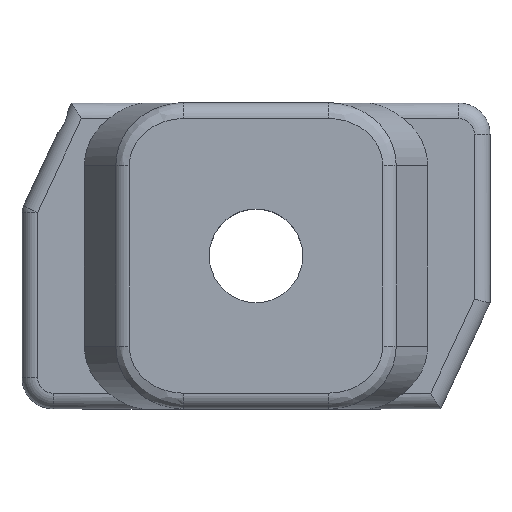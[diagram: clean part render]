
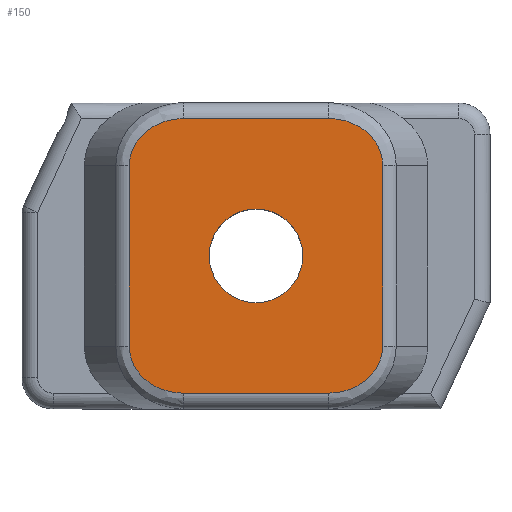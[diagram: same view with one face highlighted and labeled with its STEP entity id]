
A CAD part, top view. The second image highlights one B-rep face of the part: STEP entity #150.
In plain terms, the highlighted planar face has unit normal (0, 0, 1).
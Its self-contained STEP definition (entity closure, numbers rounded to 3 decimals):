
#150=ADVANCED_FACE('',(#338,#339),#340,.T.);
#338=FACE_BOUND('',#744,.T.);
#339=FACE_OUTER_BOUND('',#745,.T.);
#340=PLANE('',#746);
#744=EDGE_LOOP('',(#1281));
#745=EDGE_LOOP('',(#1282,#1283,#1284,#1285,#1286,#1287,#1288,#1289));
#746=AXIS2_PLACEMENT_3D('',#1290,#1291,#1292);
#1281=ORIENTED_EDGE('',*,*,#1773,.T.);
#1282=ORIENTED_EDGE('',*,*,#1774,.T.);
#1283=ORIENTED_EDGE('',*,*,#1775,.T.);
#1284=ORIENTED_EDGE('',*,*,#1776,.T.);
#1285=ORIENTED_EDGE('',*,*,#1769,.T.);
#1286=ORIENTED_EDGE('',*,*,#1777,.T.);
#1287=ORIENTED_EDGE('',*,*,#1778,.T.);
#1288=ORIENTED_EDGE('',*,*,#1779,.T.);
#1289=ORIENTED_EDGE('',*,*,#1780,.T.);
#1290=CARTESIAN_POINT('',(-7.5,-4.9,0.));
#1291=DIRECTION('',(0.0,0.0,1.0));
#1292=DIRECTION('',(1.0,0.0,0.0));
#1769=EDGE_CURVE('',#2063,#2061,#2064,.T.);
#1773=EDGE_CURVE('',#2069,#2069,#2070,.T.);
#1774=EDGE_CURVE('',#2071,#2072,#2073,.F.);
#1775=EDGE_CURVE('',#2072,#2074,#2075,.T.);
#1776=EDGE_CURVE('',#2074,#2063,#2076,.T.);
#1777=EDGE_CURVE('',#2061,#2077,#2078,.T.);
#1778=EDGE_CURVE('',#2077,#2079,#2080,.T.);
#1779=EDGE_CURVE('',#2079,#2081,#2082,.T.);
#1780=EDGE_CURVE('',#2081,#2071,#2083,.T.);
#2061=VERTEX_POINT('',#2446);
#2063=VERTEX_POINT('',#2448);
#2064=ELLIPSE('',#2449,1.73,1.5);
#2069=VERTEX_POINT('',#2454);
#2070=CIRCLE('',#2455,1.5);
#2071=VERTEX_POINT('',#2456);
#2072=VERTEX_POINT('',#2457);
#2073=LINE('',#2458,#2459);
#2074=VERTEX_POINT('',#2460);
#2075=ELLIPSE('',#2461,1.73,1.5);
#2076=LINE('',#2462,#2463);
#2077=VERTEX_POINT('',#2464);
#2078=LINE('',#2465,#2466);
#2079=VERTEX_POINT('',#2467);
#2080=ELLIPSE('',#2468,1.73,1.5);
#2081=VERTEX_POINT('',#2469);
#2082=LINE('',#2470,#2471);
#2083=ELLIPSE('',#2472,1.73,1.5);
#2446=CARTESIAN_POINT('',(4.061,-2.9,0.));
#2448=CARTESIAN_POINT('',(2.33,-4.4,0.));
#2449=AXIS2_PLACEMENT_3D('',#2826,#2827,#2828);
#2454=CARTESIAN_POINT('',(0.,-1.5,0.0));
#2455=AXIS2_PLACEMENT_3D('',#2835,#2836,#2837);
#2456=CARTESIAN_POINT('',(-4.061,2.9,0.));
#2457=CARTESIAN_POINT('',(-4.061,-2.9,0.));
#2458=CARTESIAN_POINT('',(-4.061,-2.9,0.));
#2459=VECTOR('',#2838,1.0);
#2460=CARTESIAN_POINT('',(-2.33,-4.4,0.));
#2461=AXIS2_PLACEMENT_3D('',#2839,#2840,#2841);
#2462=CARTESIAN_POINT('',(2.043,-4.4,0.));
#2463=VECTOR('',#2842,1.0);
#2464=CARTESIAN_POINT('',(4.061,2.9,0.));
#2465=CARTESIAN_POINT('',(4.061,2.9,0.));
#2466=VECTOR('',#2843,1.0);
#2467=CARTESIAN_POINT('',(2.33,4.4,0.));
#2468=AXIS2_PLACEMENT_3D('',#2844,#2845,#2846);
#2469=CARTESIAN_POINT('',(-2.33,4.4,0.));
#2470=CARTESIAN_POINT('',(-2.043,4.4,0.));
#2471=VECTOR('',#2847,1.0);
#2472=AXIS2_PLACEMENT_3D('',#2848,#2849,#2850);
#2826=CARTESIAN_POINT('',(2.33,-2.9,0.));
#2827=DIRECTION('',(0.0,0.0,1.0));
#2828=DIRECTION('',(-1.0,0.0,0.0));
#2835=CARTESIAN_POINT('',(0.,0.,0.0));
#2836=DIRECTION('',(0.0,0.0,-1.0));
#2837=DIRECTION('',(0.0,-1.0,0.0));
#2838=DIRECTION('',(0.0,1.0,0.0));
#2839=CARTESIAN_POINT('',(-2.33,-2.9,0.));
#2840=DIRECTION('',(0.0,0.0,1.0));
#2841=DIRECTION('',(-1.0,0.0,0.0));
#2842=DIRECTION('',(1.0,0.0,0.0));
#2843=DIRECTION('',(0.0,1.0,0.0));
#2844=CARTESIAN_POINT('',(2.33,2.9,0.));
#2845=DIRECTION('',(0.0,0.0,1.0));
#2846=DIRECTION('',(-1.0,0.0,0.0));
#2847=DIRECTION('',(-1.0,0.0,0.0));
#2848=CARTESIAN_POINT('',(-2.33,2.9,0.));
#2849=DIRECTION('',(0.0,0.0,1.0));
#2850=DIRECTION('',(-1.0,0.0,0.0));
